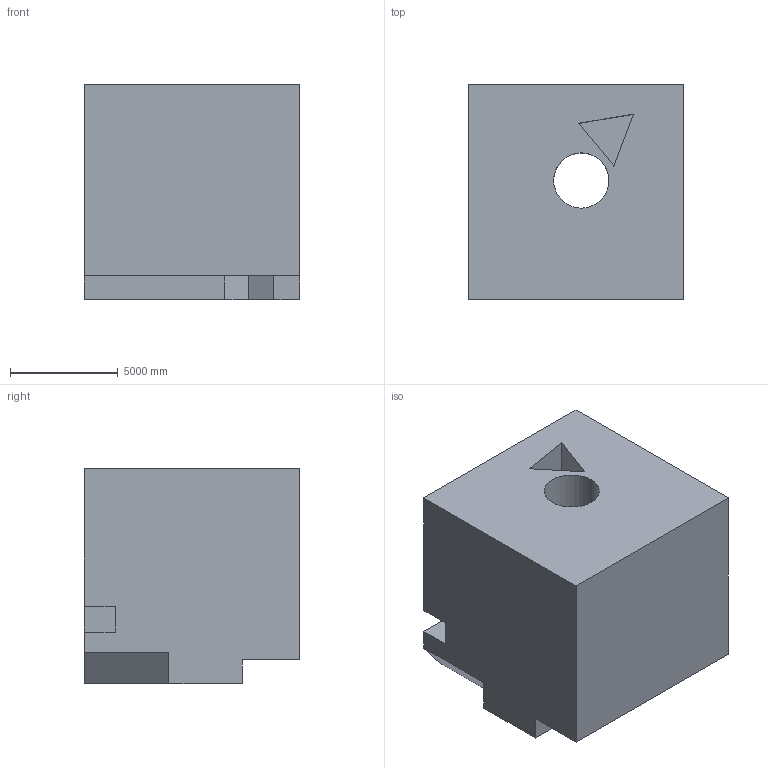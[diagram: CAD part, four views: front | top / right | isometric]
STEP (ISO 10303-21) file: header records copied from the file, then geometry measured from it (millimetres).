
FILE_DESCRIPTION (( 'STEP AP203' ), '1' );
FILE_NAME ('1509.STEP', '2022-08-18T14:55:39', ( 'user' ), ( '' ), 'SwSTEP 2.0', 'SolidWorks 2021', '' );
FILE_SCHEMA (( 'CONFIG_CONTROL_DESIGN' ));
Length unit declared in the file: centimetre
Products named in the file (1): 1509
Bounding box: 10000 x 10000 x 10000 mm (x, y, z)
Volume: 863801146760.7 mm3; surface area: 768798851.9 mm2
Topology: 1 solids, 1 shells, 29 faces, 84 edges, 56 vertices
Faces by surface type: plane 27, cylinder 2
Entity records: 1027 total; most frequent: CARTESIAN_POINT 170, ORIENTED_EDGE 168, DIRECTION 148, EDGE_CURVE 84, VECTOR 80, LINE 80, VERTEX_POINT 56, AXIS2_PLACEMENT_3D 34
